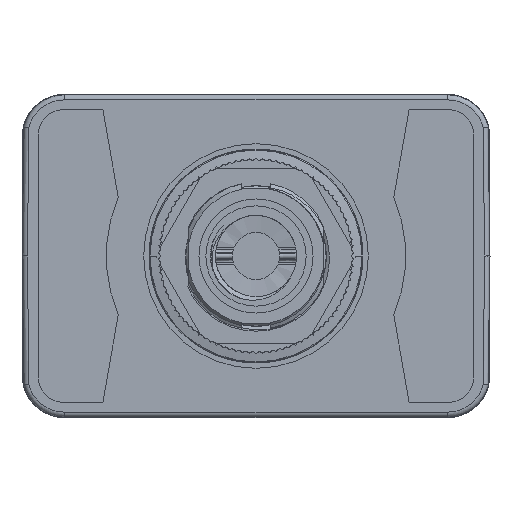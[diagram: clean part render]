
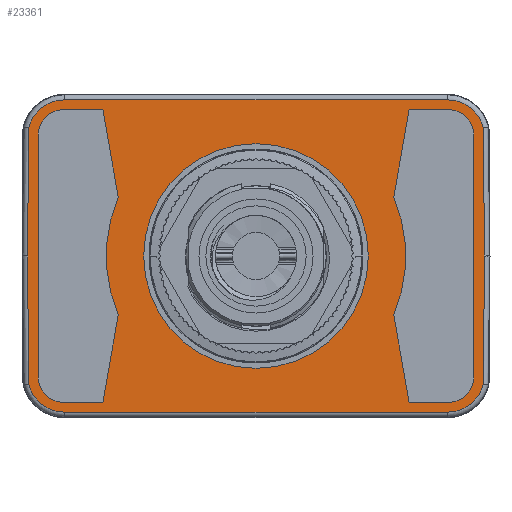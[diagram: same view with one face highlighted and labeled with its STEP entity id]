
A CAD part, front view. The second image highlights one B-rep face of the part: STEP entity #23361.
In plain terms, the highlighted planar face has unit normal (0, -1, 0).
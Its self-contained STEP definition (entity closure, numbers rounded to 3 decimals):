
#2=CARTESIAN_POINT('',(0.,-8.255,0.));
#3=DIRECTION('',(0.,-1.,0.));
#4=DIRECTION('',(-0.393,0.,-0.92));
#5=AXIS2_PLACEMENT_3D('',#2,#3,#4);
#7=DIRECTION('',(-0.985,0.,-0.174));
#8=VECTOR('',#7,13.267);
#9=CARTESIAN_POINT('',(-8.778,-8.255,-20.556));
#10=LINE('',#9,#8);
#11=DIRECTION('',(0.,0.,-1.));
#12=VECTOR('',#11,5.842);
#13=CARTESIAN_POINT('',(-21.844,-8.255,-22.86));
#14=LINE('',#13,#12);
#15=CARTESIAN_POINT('',(-18.034,-8.255,-28.702));
#16=DIRECTION('',(0.,-1.,0.));
#17=DIRECTION('',(-1.,0.,0.));
#18=AXIS2_PLACEMENT_3D('',#15,#16,#17);
#20=DIRECTION('',(1.,0.,0.));
#21=VECTOR('',#20,36.068);
#22=CARTESIAN_POINT('',(-18.034,-8.255,-32.512));
#23=LINE('',#22,#21);
#24=CARTESIAN_POINT('',(18.034,-8.255,-28.702));
#25=DIRECTION('',(0.,-1.,0.));
#26=DIRECTION('',(0.,0.,-1.));
#27=AXIS2_PLACEMENT_3D('',#24,#25,#26);
#29=DIRECTION('',(0.,0.,1.));
#30=VECTOR('',#29,5.842);
#31=CARTESIAN_POINT('',(21.844,-8.255,-28.702));
#32=LINE('',#31,#30);
#33=DIRECTION('',(-0.985,0.,0.174));
#34=VECTOR('',#33,13.267);
#35=CARTESIAN_POINT('',(21.844,-8.255,-22.86));
#36=LINE('',#35,#34);
#37=DIRECTION('',(0.,0.,1.));
#38=VECTOR('',#37,5.842);
#39=CARTESIAN_POINT('',(21.844,-8.255,22.86));
#40=LINE('',#39,#38);
#41=CARTESIAN_POINT('',(18.034,-8.255,28.702));
#42=DIRECTION('',(0.,-1.,0.));
#43=DIRECTION('',(1.,0.,0.));
#44=AXIS2_PLACEMENT_3D('',#41,#42,#43);
#46=DIRECTION('',(-1.,0.,0.));
#47=VECTOR('',#46,36.068);
#48=CARTESIAN_POINT('',(18.034,-8.255,32.512));
#49=LINE('',#48,#47);
#50=CARTESIAN_POINT('',(-18.034,-8.255,28.702));
#51=DIRECTION('',(0.,-1.,0.));
#52=DIRECTION('',(0.,0.,1.));
#53=AXIS2_PLACEMENT_3D('',#50,#51,#52);
#55=DIRECTION('',(0.,0.,-1.));
#56=VECTOR('',#55,5.842);
#57=CARTESIAN_POINT('',(-21.844,-8.255,28.702));
#58=LINE('',#57,#56);
#59=DIRECTION('',(0.985,0.,-0.174));
#60=VECTOR('',#59,13.267);
#61=CARTESIAN_POINT('',(-21.844,-8.255,22.86));
#62=LINE('',#61,#60);
#63=CARTESIAN_POINT('',(0.,-8.255,0.));
#64=DIRECTION('',(0.,-1.,0.));
#65=DIRECTION('',(0.393,0.,0.92));
#66=AXIS2_PLACEMENT_3D('',#63,#64,#65);
#68=DIRECTION('',(0.985,0.,0.174));
#69=VECTOR('',#68,13.267);
#70=CARTESIAN_POINT('',(8.778,-8.255,20.556));
#71=LINE('',#70,#69);
#72=CARTESIAN_POINT('',(0.,-8.255,0.));
#73=DIRECTION('',(0.,-1.,0.));
#74=DIRECTION('',(1.,0.,0.));
#75=AXIS2_PLACEMENT_3D('',#72,#73,#74);
#87=CARTESIAN_POINT('',(0.,-8.255,0.));
#88=DIRECTION('',(0.,-1.,0.));
#89=DIRECTION('',(-1.,0.,0.));
#90=AXIS2_PLACEMENT_3D('',#87,#88,#89);
#20520=DIRECTION('',(1.,0.,-0.009));
#20521=VECTOR('',#20520,19.128);
#20522=CARTESIAN_POINT('',(-19.128,-8.255,-33.931));
#20523=LINE('',#20522,#20521);
#20556=CARTESIAN_POINT('',(-17.78,-8.255,-28.575));
#20557=DIRECTION('',(0.,-1.,0.));
#20558=DIRECTION('',(-1.,0.,0.));
#20559=AXIS2_PLACEMENT_3D('',#20556,#20557,#20558);
#20623=DIRECTION('',(0.,0.,-1.));
#20624=VECTOR('',#20623,57.15);
#20625=CARTESIAN_POINT('',(-23.303,-8.255,28.575));
#20626=LINE('',#20625,#20624);
#20636=CARTESIAN_POINT('',(-17.78,-8.255,28.575));
#20637=DIRECTION('',(0.,-1.,0.));
#20638=DIRECTION('',(-0.244,0.,0.97));
#20639=AXIS2_PLACEMENT_3D('',#20636,#20637,#20638);
#20655=DIRECTION('',(-1.,0.,-0.009));
#20656=VECTOR('',#20655,19.128);
#20657=CARTESIAN_POINT('',(0.,-8.255,34.098));
#20658=LINE('',#20657,#20656);
#20685=DIRECTION('',(-1.,0.,0.009));
#20686=VECTOR('',#20685,19.128);
#20687=CARTESIAN_POINT('',(19.128,-8.255,33.931));
#20688=LINE('',#20687,#20686);
#20734=CARTESIAN_POINT('',(17.78,-8.255,28.575));
#20735=DIRECTION('',(0.,-1.,0.));
#20736=DIRECTION('',(1.,0.,0.));
#20737=AXIS2_PLACEMENT_3D('',#20734,#20735,#20736);
#20761=DIRECTION('',(0.,0.,1.));
#20762=VECTOR('',#20761,57.15);
#20763=CARTESIAN_POINT('',(23.303,-8.255,-28.575));
#20764=LINE('',#20763,#20762);
#20778=CARTESIAN_POINT('',(17.78,-8.255,-28.575));
#20779=DIRECTION('',(0.,-1.,0.));
#20780=DIRECTION('',(0.244,0.,-0.97));
#20781=AXIS2_PLACEMENT_3D('',#20778,#20779,#20780);
#20810=DIRECTION('',(1.,0.,0.009));
#20811=VECTOR('',#20810,19.128);
#20812=CARTESIAN_POINT('',(0.,-8.255,-34.098));
#20813=LINE('',#20812,#20811);
#22976=CARTESIAN_POINT('',(11.507,-8.255,0.));
#22977=CARTESIAN_POINT('',(-11.507,-8.255,0.));
#22978=VERTEX_POINT('',#22976);
#22979=VERTEX_POINT('',#22977);
#23038=CARTESIAN_POINT('',(-8.778,-8.255,-20.556));
#23039=CARTESIAN_POINT('',(8.778,-8.255,-20.556));
#23040=VERTEX_POINT('',#23038);
#23041=VERTEX_POINT('',#23039);
#23042=CARTESIAN_POINT('',(-21.844,-8.255,-22.86));
#23043=VERTEX_POINT('',#23042);
#23044=CARTESIAN_POINT('',(-21.844,-8.255,-28.702));
#23045=VERTEX_POINT('',#23044);
#23046=CARTESIAN_POINT('',(-18.034,-8.255,-32.512));
#23047=VERTEX_POINT('',#23046);
#23048=CARTESIAN_POINT('',(18.034,-8.255,-32.512));
#23049=VERTEX_POINT('',#23048);
#23050=CARTESIAN_POINT('',(21.844,-8.255,-28.702));
#23051=VERTEX_POINT('',#23050);
#23052=CARTESIAN_POINT('',(21.844,-8.255,-22.86));
#23053=VERTEX_POINT('',#23052);
#23070=CARTESIAN_POINT('',(21.844,-8.255,22.86));
#23071=CARTESIAN_POINT('',(21.844,-8.255,28.702));
#23072=VERTEX_POINT('',#23070);
#23073=VERTEX_POINT('',#23071);
#23074=CARTESIAN_POINT('',(18.034,-8.255,32.512));
#23075=VERTEX_POINT('',#23074);
#23076=CARTESIAN_POINT('',(-18.034,-8.255,32.512));
#23077=VERTEX_POINT('',#23076);
#23078=CARTESIAN_POINT('',(-21.844,-8.255,28.702));
#23079=VERTEX_POINT('',#23078);
#23080=CARTESIAN_POINT('',(-21.844,-8.255,22.86));
#23081=VERTEX_POINT('',#23080);
#23082=CARTESIAN_POINT('',(-8.778,-8.255,20.556));
#23083=VERTEX_POINT('',#23082);
#23084=CARTESIAN_POINT('',(8.778,-8.255,20.556));
#23085=VERTEX_POINT('',#23084);
#23090=CARTESIAN_POINT('',(19.128,-8.255,33.931));
#23091=CARTESIAN_POINT('',(0.,-8.255,34.098));
#23092=VERTEX_POINT('',#23090);
#23093=VERTEX_POINT('',#23091);
#23096=CARTESIAN_POINT('',(-19.128,-8.255,33.931));
#23097=VERTEX_POINT('',#23096);
#23102=CARTESIAN_POINT('',(-23.303,-8.255,-28.575));
#23103=CARTESIAN_POINT('',(-19.128,-8.255,-33.931));
#23104=VERTEX_POINT('',#23102);
#23105=VERTEX_POINT('',#23103);
#23106=CARTESIAN_POINT('',(-23.303,-8.255,28.575));
#23107=VERTEX_POINT('',#23106);
#23112=CARTESIAN_POINT('',(0.,-8.255,-34.098));
#23113=VERTEX_POINT('',#23112);
#23114=CARTESIAN_POINT('',(19.128,-8.255,-33.931));
#23115=VERTEX_POINT('',#23114);
#23120=CARTESIAN_POINT('',(23.303,-8.255,28.575));
#23121=VERTEX_POINT('',#23120);
#23122=CARTESIAN_POINT('',(23.303,-8.255,-28.575));
#23123=VERTEX_POINT('',#23122);
#23292=CARTESIAN_POINT('',(0.,-8.255,0.));
#23293=DIRECTION('',(0.,-1.,0.));
#23294=DIRECTION('',(1.,0.,0.));
#23295=AXIS2_PLACEMENT_3D('',#23292,#23293,#23294);
#23296=PLANE('',#23295);
#23298=ORIENTED_EDGE('',*,*,#23297,.F.);
#23300=ORIENTED_EDGE('',*,*,#23299,.F.);
#23302=ORIENTED_EDGE('',*,*,#23301,.F.);
#23304=ORIENTED_EDGE('',*,*,#23303,.F.);
#23306=ORIENTED_EDGE('',*,*,#23305,.F.);
#23308=ORIENTED_EDGE('',*,*,#23307,.F.);
#23310=ORIENTED_EDGE('',*,*,#23309,.F.);
#23312=ORIENTED_EDGE('',*,*,#23311,.F.);
#23314=ORIENTED_EDGE('',*,*,#23313,.F.);
#23316=ORIENTED_EDGE('',*,*,#23315,.F.);
#23317=EDGE_LOOP('',(#23298,#23300,#23302,#23304,#23306,#23308,#23310,#23312,
#23314,#23316));
#23318=FACE_OUTER_BOUND('',#23317,.F.);
#23320=ORIENTED_EDGE('',*,*,#23319,.T.);
#23322=ORIENTED_EDGE('',*,*,#23321,.T.);
#23323=EDGE_LOOP('',(#23320,#23322));
#23324=FACE_BOUND('',#23323,.F.);
#23326=ORIENTED_EDGE('',*,*,#23325,.F.);
#23328=ORIENTED_EDGE('',*,*,#23327,.T.);
#23330=ORIENTED_EDGE('',*,*,#23329,.T.);
#23332=ORIENTED_EDGE('',*,*,#23331,.T.);
#23334=ORIENTED_EDGE('',*,*,#23333,.T.);
#23336=ORIENTED_EDGE('',*,*,#23335,.T.);
#23338=ORIENTED_EDGE('',*,*,#23337,.T.);
#23340=ORIENTED_EDGE('',*,*,#23339,.T.);
#23341=EDGE_LOOP('',(#23326,#23328,#23330,#23332,#23334,#23336,#23338,#23340));
#23342=FACE_BOUND('',#23341,.F.);
#23344=ORIENTED_EDGE('',*,*,#23343,.T.);
#23346=ORIENTED_EDGE('',*,*,#23345,.T.);
#23348=ORIENTED_EDGE('',*,*,#23347,.T.);
#23350=ORIENTED_EDGE('',*,*,#23349,.T.);
#23352=ORIENTED_EDGE('',*,*,#23351,.T.);
#23354=ORIENTED_EDGE('',*,*,#23353,.T.);
#23356=ORIENTED_EDGE('',*,*,#23355,.F.);
#23358=ORIENTED_EDGE('',*,*,#23357,.T.);
#23359=EDGE_LOOP('',(#23344,#23346,#23348,#23350,#23352,#23354,#23356,#23358));
#23360=FACE_BOUND('',#23359,.F.);
#23361=ADVANCED_FACE('',(#23318,#23324,#23342,#23360),#23296,.T.);
#6=CIRCLE('',#5,22.352);
#19=CIRCLE('',#18,3.81);
#28=CIRCLE('',#27,3.81);
#45=CIRCLE('',#44,3.81);
#54=CIRCLE('',#53,3.81);
#67=CIRCLE('',#66,22.352);
#76=CIRCLE('',#75,11.507);
#91=CIRCLE('',#90,11.507);
#20560=CIRCLE('',#20559,5.523);
#20640=CIRCLE('',#20639,5.523);
#20738=CIRCLE('',#20737,5.523);
#20782=CIRCLE('',#20781,5.523);
#23297=EDGE_CURVE('',#23092,#23093,#20688,.T.);
#23299=EDGE_CURVE('',#23121,#23092,#20738,.T.);
#23301=EDGE_CURVE('',#23123,#23121,#20764,.T.);
#23303=EDGE_CURVE('',#23115,#23123,#20782,.T.);
#23305=EDGE_CURVE('',#23113,#23115,#20813,.T.);
#23307=EDGE_CURVE('',#23105,#23113,#20523,.T.);
#23309=EDGE_CURVE('',#23104,#23105,#20560,.T.);
#23311=EDGE_CURVE('',#23107,#23104,#20626,.T.);
#23313=EDGE_CURVE('',#23097,#23107,#20640,.T.);
#23315=EDGE_CURVE('',#23093,#23097,#20658,.T.);
#23319=EDGE_CURVE('',#22978,#22979,#76,.T.);
#23321=EDGE_CURVE('',#22979,#22978,#91,.T.);
#23325=EDGE_CURVE('',#23040,#23041,#6,.T.);
#23327=EDGE_CURVE('',#23040,#23043,#10,.T.);
#23329=EDGE_CURVE('',#23043,#23045,#14,.T.);
#23331=EDGE_CURVE('',#23045,#23047,#19,.T.);
#23333=EDGE_CURVE('',#23047,#23049,#23,.T.);
#23335=EDGE_CURVE('',#23049,#23051,#28,.T.);
#23337=EDGE_CURVE('',#23051,#23053,#32,.T.);
#23339=EDGE_CURVE('',#23053,#23041,#36,.T.);
#23343=EDGE_CURVE('',#23072,#23073,#40,.T.);
#23345=EDGE_CURVE('',#23073,#23075,#45,.T.);
#23347=EDGE_CURVE('',#23075,#23077,#49,.T.);
#23349=EDGE_CURVE('',#23077,#23079,#54,.T.);
#23351=EDGE_CURVE('',#23079,#23081,#58,.T.);
#23353=EDGE_CURVE('',#23081,#23083,#62,.T.);
#23355=EDGE_CURVE('',#23085,#23083,#67,.T.);
#23357=EDGE_CURVE('',#23085,#23072,#71,.T.);
